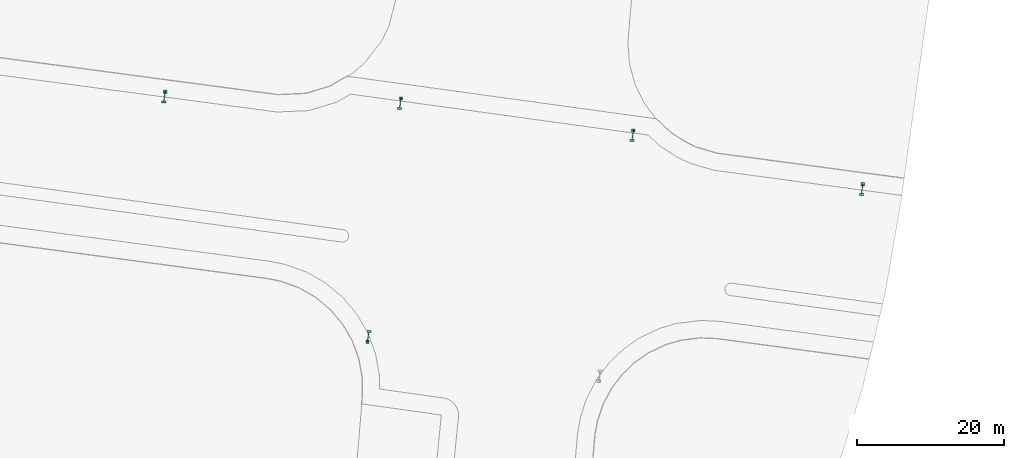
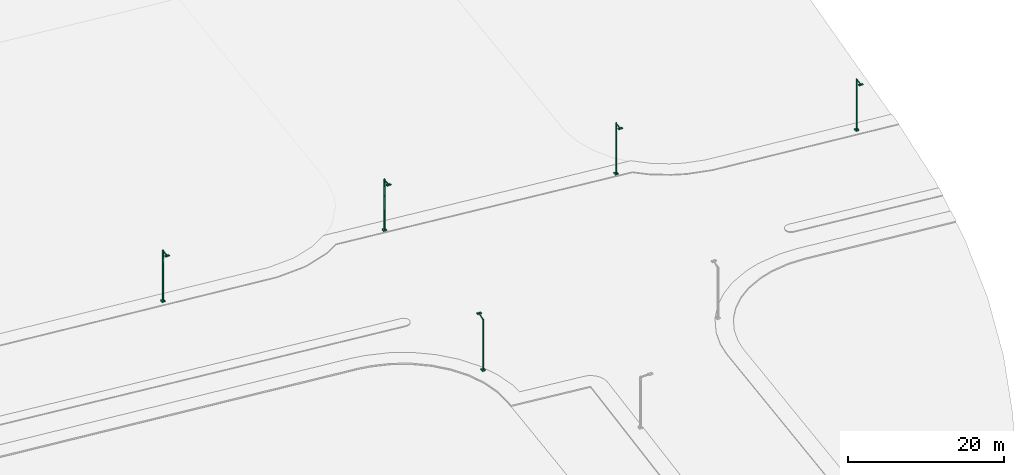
# Not in any storey, part 60 of 75: 5 light fixtures.
"""IFC4 model written with IfcOpenShell, lengths in metres."""

from ifc_helpers import new_model, si_unit, direction, origin, origin_with_axes, place, context, subcontext, project, spatial, triangles, element, save


model = new_model("IFC4")

# Units and contexts
model_context = context("Model", 3, precision=1e-05, world=origin_with_axes(), true_north=direction((0.0, 1.0)))
body_context = subcontext(model_context, "Body", "Model", "MODEL_VIEW")
ifc_project = project(units=[si_unit("AREAUNIT", "SQUARE_METRE"), si_unit("VOLUMEUNIT", "CUBIC_METRE"), si_unit("LENGTHUNIT", "METRE")], contexts=[model_context])

# Site
site_placement = place(None, origin_with_axes())
site = spatial("IfcSite", under=ifc_project, at=site_placement, Name="Parcela industrial Jinhong")

# Light fixtures
light_fixture_1_placement = place(None, origin())
element("IfcLightFixture", 1, at=light_fixture_1_placement, inside=site, Name="Luminaria del entorno · ilustrativa 18", ObjectType="Luminaria del entorno · ilustrativa 18", PredefinedType="USERDEFINED", context=body_context, shape_type="Tessellation", body=[
    triangles([(222.583556, -10.294775, 3.055508), (222.583556, -10.294775, 3.255508), (222.583556, -9.844775, 3.055508), (222.583556, -9.844775, 3.255508), (223.033556, -10.294775, 3.055508), (223.033556, -10.294775, 3.255508), (223.033556, -9.844775, 3.055508), (223.033556, -9.844775, 3.255508)], [[2, 4, 1], [5, 2, 1], [1, 4, 3], [3, 5, 1], [2, 8, 4], [6, 2, 5], [6, 8, 2], [4, 8, 3], [7, 5, 3], [3, 8, 7], [7, 6, 5], [8, 6, 7]], closed=True),
    triangles([(222.748556, -10.129775, 3.255508), (222.748556, -10.129775, 11.055508), (222.748556, -10.009775, 3.255508), (222.748556, -10.009775, 11.055508), (222.868556, -10.129775, 3.255508), (222.868556, -10.129775, 11.055508), (222.868556, -10.009775, 3.255508), (222.868556, -10.009775, 11.055508)], [[2, 4, 1], [5, 2, 1], [1, 4, 3], [3, 5, 1], [2, 8, 4], [6, 2, 5], [6, 8, 2], [4, 8, 3], [7, 5, 3], [3, 8, 7], [7, 6, 5], [8, 6, 7]], closed=True),
    triangles([(222.843695, -10.079298, 10.912212), (222.65266, -11.466203, 11.062212), (222.764895, -10.067644, 10.919604), (222.57386, -11.454549, 11.069604), (222.852218, -10.071906, 10.991413), (222.661183, -11.458811, 11.141413), (222.773417, -10.060252, 10.998805), (222.582382, -11.447157, 11.148805)], [[2, 4, 1], [5, 2, 1], [1, 4, 3], [3, 5, 1], [2, 8, 4], [6, 2, 5], [6, 8, 2], [4, 8, 3], [7, 5, 3], [3, 8, 7], [7, 6, 5], [8, 6, 7]], closed=True),
    triangles([(222.327521, -11.59668, 11.045508), (222.327521, -11.59668, 11.165508), (222.327521, -11.31668, 11.045508), (222.327521, -11.31668, 11.165508), (222.907521, -11.59668, 11.045508), (222.907521, -11.59668, 11.165508), (222.907521, -11.31668, 11.045508), (222.907521, -11.31668, 11.165508)], [[2, 4, 1], [5, 2, 1], [1, 4, 3], [3, 5, 1], [2, 8, 4], [6, 2, 5], [6, 8, 2], [4, 8, 3], [7, 5, 3], [3, 8, 7], [7, 6, 5], [8, 6, 7]], closed=True),
])
light_fixture_2_placement = place(None, origin())
element("IfcLightFixture", 2, at=light_fixture_2_placement, inside=site, Name="Luminaria del entorno · ilustrativa 19", ObjectType="Luminaria del entorno · ilustrativa 19", PredefinedType="USERDEFINED", context=body_context, shape_type="Tessellation", body=[
    triangles([(250.190636, -44.380683, 3.278503), (250.190636, -44.380683, 3.478503), (250.190636, -43.930683, 3.278503), (250.190636, -43.930683, 3.478503), (250.640636, -44.380683, 3.278503), (250.640636, -44.380683, 3.478503), (250.640636, -43.930683, 3.278503), (250.640636, -43.930683, 3.478503)], [[2, 4, 1], [5, 2, 1], [1, 4, 3], [3, 5, 1], [2, 8, 4], [6, 2, 5], [6, 8, 2], [4, 8, 3], [7, 5, 3], [3, 8, 7], [7, 6, 5], [8, 6, 7]], closed=True),
    triangles([(250.355636, -44.215683, 3.478503), (250.355636, -44.215683, 11.278503), (250.355636, -44.095683, 3.478503), (250.355636, -44.095683, 11.278503), (250.475636, -44.215683, 3.478503), (250.475636, -44.215683, 11.278503), (250.475636, -44.095683, 3.478503), (250.475636, -44.095683, 11.278503)], [[2, 4, 1], [5, 2, 1], [1, 4, 3], [3, 5, 1], [2, 8, 4], [6, 2, 5], [6, 8, 2], [4, 8, 3], [7, 5, 3], [3, 8, 7], [7, 6, 5], [8, 6, 7]], closed=True),
    triangles([(250.450775, -44.165206, 11.221799), (250.64181, -42.778301, 11.371799), (250.371975, -44.153552, 11.214407), (250.56301, -42.766647, 11.364407), (250.459298, -44.157814, 11.142599), (250.650333, -42.770909, 11.292599), (250.380497, -44.14616, 11.135207), (250.571532, -42.759255, 11.285207)], [[2, 4, 1], [5, 2, 1], [1, 4, 3], [3, 5, 1], [2, 8, 4], [6, 2, 5], [6, 8, 2], [4, 8, 3], [7, 5, 3], [3, 8, 7], [7, 6, 5], [8, 6, 7]], closed=True),
    triangles([(250.316671, -42.908778, 11.268503), (250.316671, -42.908778, 11.388503), (250.316671, -42.628778, 11.268503), (250.316671, -42.628778, 11.388503), (250.896671, -42.908778, 11.268503), (250.896671, -42.908778, 11.388503), (250.896671, -42.628778, 11.268503), (250.896671, -42.628778, 11.388503)], [[2, 4, 1], [5, 2, 1], [1, 4, 3], [3, 5, 1], [2, 8, 4], [6, 2, 5], [6, 8, 2], [4, 8, 3], [7, 5, 3], [3, 8, 7], [7, 6, 5], [8, 6, 7]], closed=True),
])
light_fixture_3_placement = place(None, origin())
element("IfcLightFixture", 3, at=light_fixture_3_placement, inside=site, Name="Luminaria del entorno · ilustrativa 20", ObjectType="Luminaria del entorno · ilustrativa 20", PredefinedType="USERDEFINED", context=body_context, shape_type="Tessellation", body=[
    triangles([(254.761831, -11.194027, 3.419037), (254.761831, -11.194027, 3.619037), (254.761831, -10.744027, 3.419037), (254.761831, -10.744027, 3.619037), (255.211831, -11.194027, 3.419037), (255.211831, -11.194027, 3.619037), (255.211831, -10.744027, 3.419037), (255.211831, -10.744027, 3.619037)], [[2, 4, 1], [5, 2, 1], [1, 4, 3], [3, 5, 1], [2, 8, 4], [6, 2, 5], [6, 8, 2], [4, 8, 3], [7, 5, 3], [3, 8, 7], [7, 6, 5], [8, 6, 7]], closed=True),
    triangles([(254.926831, -11.029027, 3.619037), (254.926831, -11.029027, 11.419037), (254.926831, -10.909027, 3.619037), (254.926831, -10.909027, 11.419037), (255.046831, -11.029027, 3.619037), (255.046831, -11.029027, 11.419037), (255.046831, -10.909027, 3.619037), (255.046831, -10.909027, 11.419037)], [[2, 4, 1], [5, 2, 1], [1, 4, 3], [3, 5, 1], [2, 8, 4], [6, 2, 5], [6, 8, 2], [4, 8, 3], [7, 5, 3], [3, 8, 7], [7, 6, 5], [8, 6, 7]], closed=True),
    triangles([(255.02197, -10.978549, 11.275741), (254.830935, -12.365454, 11.425741), (254.943169, -10.966896, 11.283132), (254.752134, -12.353801, 11.433132), (255.030492, -10.971157, 11.354941), (254.839457, -12.358062, 11.504941), (254.951692, -10.959504, 11.362333), (254.760657, -12.346409, 11.512333)], [[2, 4, 1], [5, 2, 1], [1, 4, 3], [3, 5, 1], [2, 8, 4], [6, 2, 5], [6, 8, 2], [4, 8, 3], [7, 5, 3], [3, 8, 7], [7, 6, 5], [8, 6, 7]], closed=True),
    triangles([(254.505796, -12.495932, 11.409037), (254.505796, -12.495932, 11.529037), (254.505796, -12.215932, 11.409037), (254.505796, -12.215932, 11.529037), (255.085796, -12.495932, 11.409037), (255.085796, -12.495932, 11.529037), (255.085796, -12.215932, 11.409037), (255.085796, -12.215932, 11.529037)], [[2, 4, 1], [5, 2, 1], [1, 4, 3], [3, 5, 1], [2, 8, 4], [6, 2, 5], [6, 8, 2], [4, 8, 3], [7, 5, 3], [3, 8, 7], [7, 6, 5], [8, 6, 7]], closed=True),
])
light_fixture_4_placement = place(None, origin())
element("IfcLightFixture", 4, at=light_fixture_4_placement, inside=site, Name="Luminaria del entorno · ilustrativa 22", ObjectType="Luminaria del entorno · ilustrativa 22", PredefinedType="USERDEFINED", context=body_context, shape_type="Tessellation", body=[
    triangles([(286.462518, -15.560541, 3.767883), (286.462518, -15.560541, 3.967883), (286.462518, -15.110541, 3.767883), (286.462518, -15.110541, 3.967883), (286.912518, -15.560541, 3.767883), (286.912518, -15.560541, 3.967883), (286.912518, -15.110541, 3.767883), (286.912518, -15.110541, 3.967883)], [[2, 4, 1], [5, 2, 1], [1, 4, 3], [3, 5, 1], [2, 8, 4], [6, 2, 5], [6, 8, 2], [4, 8, 3], [7, 5, 3], [3, 8, 7], [7, 6, 5], [8, 6, 7]], closed=True),
    triangles([(286.627518, -15.395541, 3.967883), (286.627518, -15.395541, 11.767883), (286.627518, -15.275541, 3.967883), (286.627518, -15.275541, 11.767883), (286.747518, -15.395541, 3.967883), (286.747518, -15.395541, 11.767883), (286.747518, -15.275541, 3.967883), (286.747518, -15.275541, 11.767883)], [[2, 4, 1], [5, 2, 1], [1, 4, 3], [3, 5, 1], [2, 8, 4], [6, 2, 5], [6, 8, 2], [4, 8, 3], [7, 5, 3], [3, 8, 7], [7, 6, 5], [8, 6, 7]], closed=True),
    triangles([(286.722657, -15.345063, 11.624586), (286.531622, -16.731968, 11.774586), (286.643856, -15.33341, 11.631978), (286.452821, -16.720315, 11.781978), (286.731179, -15.337671, 11.703787), (286.540144, -16.724576, 11.853787), (286.652379, -15.326018, 11.711179), (286.461344, -16.712923, 11.861179)], [[2, 4, 1], [5, 2, 1], [1, 4, 3], [3, 5, 1], [2, 8, 4], [6, 2, 5], [6, 8, 2], [4, 8, 3], [7, 5, 3], [3, 8, 7], [7, 6, 5], [8, 6, 7]], closed=True),
    triangles([(286.206483, -16.862446, 11.757883), (286.206483, -16.862446, 11.877883), (286.206483, -16.582446, 11.757883), (286.206483, -16.582446, 11.877883), (286.786483, -16.862446, 11.757883), (286.786483, -16.862446, 11.877883), (286.786483, -16.582446, 11.757883), (286.786483, -16.582446, 11.877883)], [[2, 4, 1], [5, 2, 1], [1, 4, 3], [3, 5, 1], [2, 8, 4], [6, 2, 5], [6, 8, 2], [4, 8, 3], [7, 5, 3], [3, 8, 7], [7, 6, 5], [8, 6, 7]], closed=True),
])
light_fixture_5_placement = place(None, origin())
element("IfcLightFixture", 5, at=light_fixture_5_placement, inside=site, Name="Luminaria del entorno · ilustrativa 23", ObjectType="Luminaria del entorno · ilustrativa 23", PredefinedType="USERDEFINED", context=body_context, shape_type="Tessellation", body=[
    triangles([(317.753844, -22.898994, 4.104143), (317.753844, -22.898994, 4.304143), (317.753844, -22.448994, 4.104143), (317.753844, -22.448994, 4.304143), (318.203844, -22.898994, 4.104143), (318.203844, -22.898994, 4.304143), (318.203844, -22.448994, 4.104143), (318.203844, -22.448994, 4.304143)], [[2, 4, 1], [5, 2, 1], [1, 4, 3], [3, 5, 1], [2, 8, 4], [6, 2, 5], [6, 8, 2], [4, 8, 3], [7, 5, 3], [3, 8, 7], [7, 6, 5], [8, 6, 7]], closed=True),
    triangles([(317.918844, -22.733994, 4.304143), (317.918844, -22.733994, 12.104143), (317.918844, -22.613994, 4.304143), (317.918844, -22.613994, 12.104143), (318.038844, -22.733994, 4.304143), (318.038844, -22.733994, 12.104143), (318.038844, -22.613994, 4.304143), (318.038844, -22.613994, 12.104143)], [[2, 4, 1], [5, 2, 1], [1, 4, 3], [3, 5, 1], [2, 8, 4], [6, 2, 5], [6, 8, 2], [4, 8, 3], [7, 5, 3], [3, 8, 7], [7, 6, 5], [8, 6, 7]], closed=True),
    triangles([(318.013983, -22.683517, 11.960847), (317.822948, -24.070422, 12.110847), (317.935182, -22.671863, 11.968239), (317.744147, -24.058768, 12.118239), (318.022506, -22.676125, 12.040048), (317.831471, -24.06303, 12.190048), (317.943705, -22.664471, 12.04744), (317.75267, -24.051376, 12.19744)], [[2, 4, 1], [5, 2, 1], [1, 4, 3], [3, 5, 1], [2, 8, 4], [6, 2, 5], [6, 8, 2], [4, 8, 3], [7, 5, 3], [3, 8, 7], [7, 6, 5], [8, 6, 7]], closed=True),
    triangles([(317.497809, -24.200899, 12.094143), (317.497809, -24.200899, 12.214143), (317.497809, -23.920899, 12.094143), (317.497809, -23.920899, 12.214143), (318.077809, -24.200899, 12.094143), (318.077809, -24.200899, 12.214143), (318.077809, -23.920899, 12.094143), (318.077809, -23.920899, 12.214143)], [[2, 4, 1], [5, 2, 1], [1, 4, 3], [3, 5, 1], [2, 8, 4], [6, 2, 5], [6, 8, 2], [4, 8, 3], [7, 5, 3], [3, 8, 7], [7, 6, 5], [8, 6, 7]], closed=True),
])

save(model, "model.ifc")
